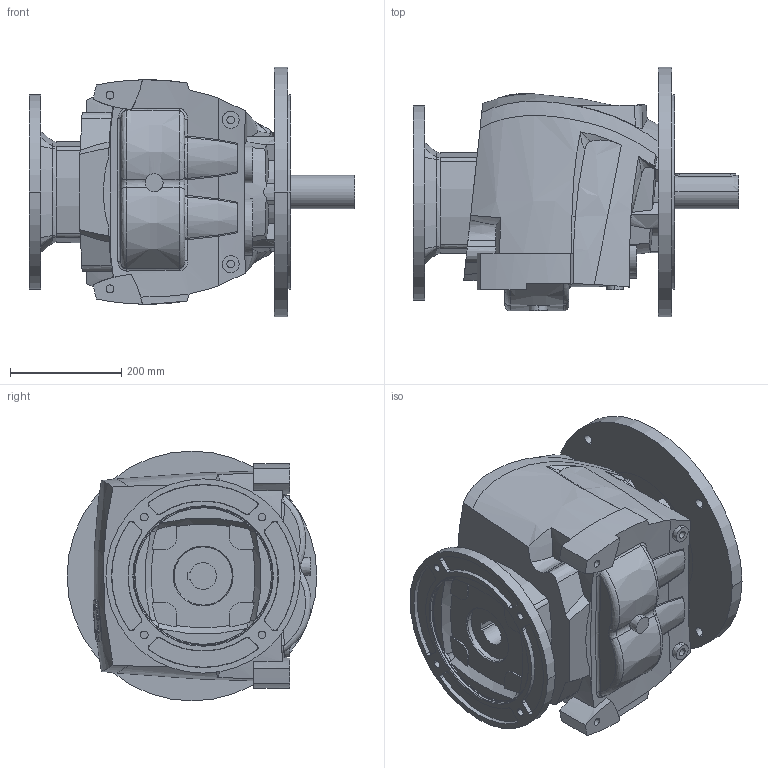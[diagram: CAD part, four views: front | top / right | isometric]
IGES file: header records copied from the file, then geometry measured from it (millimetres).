
Start section:  PTC IGES file: r60_450_pam180.igs
Global section: file name: r60_450_pam180.igs; native system: Pro/ENGINEER by Parametric Technology Corporation; preprocessor: 2008230; author: Luca; organization: Unknown; date: 20131223.174923; units: millimetre
Bounding box: 585.5 x 450 x 450 mm (x, y, z)
Volume: 42885580.5 mm3; surface area: 1281994.2 mm2
Topology: 1 solids, 8 shells, 541 faces, 1437 edges, 951 vertices
Faces by surface type: bspline 301, revolution 231, extrusion 9
